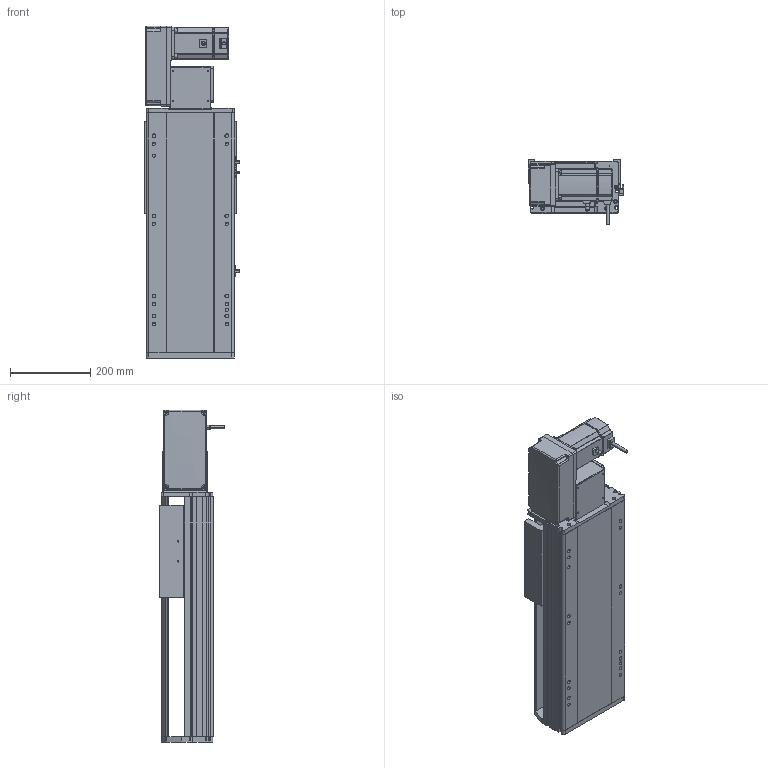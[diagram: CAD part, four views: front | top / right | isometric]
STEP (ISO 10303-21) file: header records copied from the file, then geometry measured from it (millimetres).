
FILE_DESCRIPTION (( 'STEP AP214' ), '1' );
FILE_NAME ('RTB22S-XX-250-L-M75-C4.STEP', '2025-12-12T03:11:11', ( '' ), ( '' ), 'SwSTEP 2.0', 'SolidWorks 2018', '' );
FILE_SCHEMA (( 'AUTOMOTIVE_DESIGN' ));
Length unit declared in the file: millimetre
Products named in the file (14): RTB22S-GY-001耜裔^RTB22S-XX-XX-L-M75-C4; RTB22S-GY-008-M75--萇儂啣^RTB22S-L-々湍釱蚾饜_RTB22S-XX-XX-L-M75-C4; RTB22S-L-004賑釱^RTB22S-XX-XX-L-M75-C4; RTH22-GY-013外置感应片^RTB22S-XX-XX-L-M75-C4; RTB22S-GY-018P^RTB22S-L-々湍釱蚾饜_RTB22S-XX-XX-L-M75-C4; 750W萇儂^RTB22S-XX-XX-L-M75-C4; RTB22S-L-々湍釱蚾饜^RTB22S-XX-XX-L-M75-C4; RTB22S-GY-005P^RTB22S-L-々湍釱蚾饜_RTB22S-XX-XX-L-M75-C4; RTB22S-GY-014--々湍釱^RTB22S-L-々湍釱蚾饜_RTB22S-XX-XX-L-M75-C4; RTB22S-GY-007奻裔^RTB22S-XX-XX-L-M75-C4; RTB22S-L-011菁釱^RTB22S-XX-XX-L-M75-C4; OMRON EE-SX672 传感器^RTB22S-XX-XX-L-M75-C4; RTB22S-XX-250-L-M75-C4; RTB22S-GY-017P^RTB22S-L-々湍釱蚾饜_RTB22S-XX-XX-L-M75-C4
Assembly tree (16 placements, depth 3):
  RTB22S-XX-250-L-M75-C4
    RTB22S-L-011菁釱^RTB22S-XX-XX-L-M75-C4
    750W萇儂^RTB22S-XX-XX-L-M75-C4
    RTB22S-L-004賑釱^RTB22S-XX-XX-L-M75-C4
    OMRON EE-SX672 传感器^RTB22S-XX-XX-L-M75-C4  x3
    RTH22-GY-013外置感应片^RTB22S-XX-XX-L-M75-C4
    RTB22S-GY-007奻裔^RTB22S-XX-XX-L-M75-C4
    RTB22S-GY-001耜裔^RTB22S-XX-XX-L-M75-C4
    RTB22S-L-々湍釱蚾饜^RTB22S-XX-XX-L-M75-C4
      RTB22S-GY-014--々湍釱^RTB22S-L-々湍釱蚾饜_RTB22S-XX-XX-L-M75-C4
      RTB22S-GY-017P^RTB22S-L-々湍釱蚾饜_RTB22S-XX-XX-L-M75-C4  x2
      RTB22S-GY-005P^RTB22S-L-々湍釱蚾饜_RTB22S-XX-XX-L-M75-C4
      RTB22S-GY-008-M75--萇儂啣^RTB22S-L-々湍釱蚾饜_RTB22S-XX-XX-L-M75-C4
      RTB22S-GY-018P^RTB22S-L-々湍釱蚾饜_RTB22S-XX-XX-L-M75-C4
Bounding box: 238.5 x 162.7 x 829 mm (x, y, z)
Volume: 12547978.4 mm3; surface area: 1343717 mm2
Topology: 15 solids, 15 shells, 1911 faces, 5186 edges, 3332 vertices
Faces by surface type: plane 907, cylinder 574, bspline 296, cone 122, sphere 8, torus 4
Entity records: 50136 total; most frequent: CARTESIAN_POINT 14580, ORIENTED_EDGE 7192, DIRECTION 6850, EDGE_CURVE 3596, AXIS2_PLACEMENT_3D 2390, VERTEX_POINT 2336, VECTOR 2070, LINE 2070
